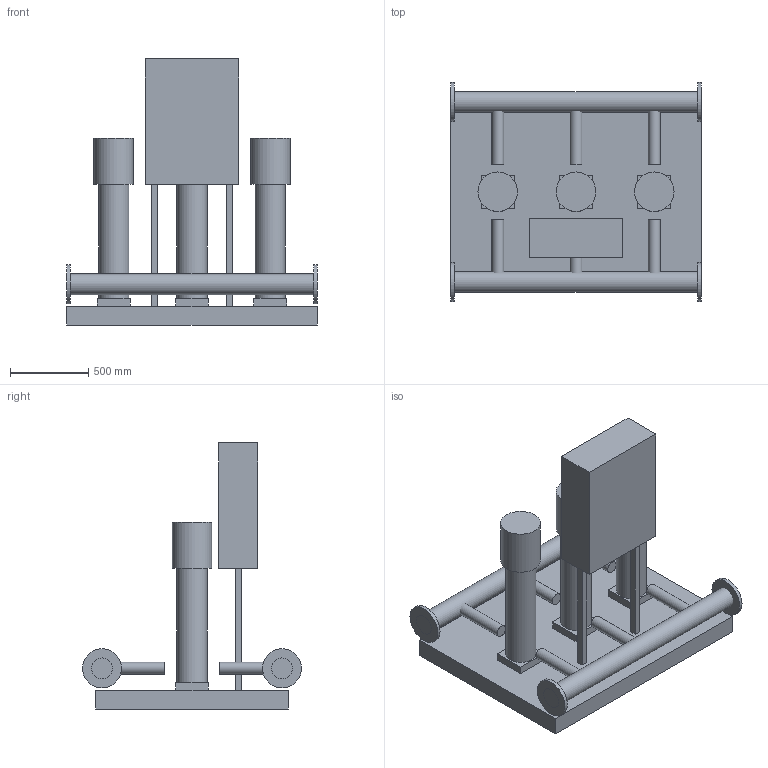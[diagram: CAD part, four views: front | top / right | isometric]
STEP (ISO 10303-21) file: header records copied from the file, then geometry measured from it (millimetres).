
FILE_DESCRIPTION(('Open CASCADE Model'),'2;1');
FILE_NAME('Open CASCADE Shape Model','2026-10-21T15:05:55',('Author'),( 'Open CASCADE'),'Open CASCADE STEP processor 7.9','Open CASCADE 7.9' ,'Unknown');
FILE_SCHEMA(('AUTOMOTIVE_DESIGN { 1 0 10303 214 1 1 1 1 }'));
Length unit declared in the file: millimetre
Products named in the file (26): Ð£ÐÐ_ÐÐ ÐÐÐÐ¬_3_CDM_32_2; 000_Ð Ð°Ð¼Ð° (Ð¾ÑÐ½Ð¾Ð²Ð°Ð½Ð¸Ðµ); 001_ÐÐ¾Ð»Ð»ÐµÐºÑÐ¾Ñ 
Ð²ÑÐ°ÑÑÐ²Ð°ÑÑÐ¸Ð¹; 002_ÐÐ¾Ð»Ð»ÐµÐºÑÐ¾Ñ 
Ð²ÑÐ°ÑÑÐ²Ð°ÑÑÐ¸Ð¹ â 
ÑÐ»Ð°Ð½ÐµÑ ÐÑ125; 003_ÐÐ¾Ð»Ð»ÐµÐºÑÐ¾Ñ 
Ð²ÑÐ°ÑÑÐ²Ð°ÑÑÐ¸Ð¹ â 
ÑÐ»Ð°Ð½ÐµÑ ÐÑ125; 004_ÐÐ¾Ð»Ð»ÐµÐºÑÐ¾Ñ 
Ð½Ð°Ð¿Ð¾ÑÐ½ÑÐ¹; 005_ÐÐ¾Ð»Ð»ÐµÐºÑÐ¾Ñ 
Ð½Ð°Ð¿Ð¾ÑÐ½ÑÐ¹ â ÑÐ»Ð°Ð½ÐµÑ 
ÐÑ125; 006_ÐÐ¾Ð»Ð»ÐµÐºÑÐ¾Ñ 
Ð½Ð°Ð¿Ð¾ÑÐ½ÑÐ¹ â ÑÐ»Ð°Ð½ÐµÑ 
ÐÑ125; 007_ÐÐ°ÑÐ¾Ñ 1 â Ð¾Ð¿Ð¾ÑÐ°; 008_ÐÐ°ÑÐ¾Ñ 1 â 
Ð³Ð¸Ð´ÑÐ¾ÑÐ°ÑÑÑ; 009_ÐÐ°ÑÐ¾Ñ 1 â Ð´Ð²Ð¸Ð³Ð°ÑÐµÐ»Ñ 
4.0 ÐºÐÑ; 010_ÐÐ°ÑÐ¾Ñ 1 â Ð¾Ð±Ð²ÑÐ·ÐºÐ° 
Ð²ÑÐ¾Ð´ ÐÑ65; 011_ÐÐ°ÑÐ¾Ñ 1 â Ð¾Ð±Ð²ÑÐ·ÐºÐ° 
Ð²ÑÑÐ¾Ð´ ÐÑ65; 012_ÐÐ°ÑÐ¾Ñ 2 â Ð¾Ð¿Ð¾ÑÐ°; 013_ÐÐ°ÑÐ¾Ñ 2 â 
Ð³Ð¸Ð´ÑÐ¾ÑÐ°ÑÑÑ; 014_ÐÐ°ÑÐ¾Ñ 2 â Ð´Ð²Ð¸Ð³Ð°ÑÐµÐ»Ñ 
4.0 ÐºÐÑ; 015_ÐÐ°ÑÐ¾Ñ 2 â Ð¾Ð±Ð²ÑÐ·ÐºÐ° 
Ð²ÑÐ¾Ð´ ÐÑ65; 016_ÐÐ°ÑÐ¾Ñ 2 â Ð¾Ð±Ð²ÑÐ·ÐºÐ° 
Ð²ÑÑÐ¾Ð´ ÐÑ65; 017_ÐÐ°ÑÐ¾Ñ 3 â Ð¾Ð¿Ð¾ÑÐ°; 018_ÐÐ°ÑÐ¾Ñ 3 â 
Ð³Ð¸Ð´ÑÐ¾ÑÐ°ÑÑÑ; 019_ÐÐ°ÑÐ¾Ñ 3 â Ð´Ð²Ð¸Ð³Ð°ÑÐµÐ»Ñ 
4.0 ÐºÐÑ; 020_ÐÐ°ÑÐ¾Ñ 3 â Ð¾Ð±Ð²ÑÐ·ÐºÐ° 
Ð²ÑÐ¾Ð´ ÐÑ65; 021_ÐÐ°ÑÐ¾Ñ 3 â Ð¾Ð±Ð²ÑÐ·ÐºÐ° 
Ð²ÑÑÐ¾Ð´ ÐÑ65; 022_Ð¨ÐºÐ°Ñ ÑÐ¿ÑÐ°Ð²Ð»ÐµÐ½Ð¸Ñ; 023_Ð¡ÑÐ¾Ð¹ÐºÐ° ÑÐºÐ°ÑÐ°; 024_Ð¡ÑÐ¾Ð¹ÐºÐ° ÑÐºÐ°ÑÐ°
Assembly tree (25 placements, depth 2):
  Ð£ÐÐ_ÐÐ ÐÐÐÐ¬_3_CDM_32_2
    000_Ð Ð°Ð¼Ð° (Ð¾ÑÐ½Ð¾Ð²Ð°Ð½Ð¸Ðµ)
    001_ÐÐ¾Ð»Ð»ÐµÐºÑÐ¾Ñ 
Ð²ÑÐ°ÑÑÐ²Ð°ÑÑÐ¸Ð¹
    002_ÐÐ¾Ð»Ð»ÐµÐºÑÐ¾Ñ 
Ð²ÑÐ°ÑÑÐ²Ð°ÑÑÐ¸Ð¹ â 
ÑÐ»Ð°Ð½ÐµÑ ÐÑ125
    003_ÐÐ¾Ð»Ð»ÐµÐºÑÐ¾Ñ 
Ð²ÑÐ°ÑÑÐ²Ð°ÑÑÐ¸Ð¹ â 
ÑÐ»Ð°Ð½ÐµÑ ÐÑ125
    004_ÐÐ¾Ð»Ð»ÐµÐºÑÐ¾Ñ 
Ð½Ð°Ð¿Ð¾ÑÐ½ÑÐ¹
    005_ÐÐ¾Ð»Ð»ÐµÐºÑÐ¾Ñ 
Ð½Ð°Ð¿Ð¾ÑÐ½ÑÐ¹ â ÑÐ»Ð°Ð½ÐµÑ 
ÐÑ125
    006_ÐÐ¾Ð»Ð»ÐµÐºÑÐ¾Ñ 
Ð½Ð°Ð¿Ð¾ÑÐ½ÑÐ¹ â ÑÐ»Ð°Ð½ÐµÑ 
ÐÑ125
    007_ÐÐ°ÑÐ¾Ñ 1 â Ð¾Ð¿Ð¾ÑÐ°
    008_ÐÐ°ÑÐ¾Ñ 1 â 
Ð³Ð¸Ð´ÑÐ¾ÑÐ°ÑÑÑ
    009_ÐÐ°ÑÐ¾Ñ 1 â Ð´Ð²Ð¸Ð³Ð°ÑÐµÐ»Ñ 
4.0 ÐºÐÑ
    010_ÐÐ°ÑÐ¾Ñ 1 â Ð¾Ð±Ð²ÑÐ·ÐºÐ° 
Ð²ÑÐ¾Ð´ ÐÑ65
    011_ÐÐ°ÑÐ¾Ñ 1 â Ð¾Ð±Ð²ÑÐ·ÐºÐ° 
Ð²ÑÑÐ¾Ð´ ÐÑ65
    012_ÐÐ°ÑÐ¾Ñ 2 â Ð¾Ð¿Ð¾ÑÐ°
    013_ÐÐ°ÑÐ¾Ñ 2 â 
Ð³Ð¸Ð´ÑÐ¾ÑÐ°ÑÑÑ
    014_ÐÐ°ÑÐ¾Ñ 2 â Ð´Ð²Ð¸Ð³Ð°ÑÐµÐ»Ñ 
4.0 ÐºÐÑ
    015_ÐÐ°ÑÐ¾Ñ 2 â Ð¾Ð±Ð²ÑÐ·ÐºÐ° 
Ð²ÑÐ¾Ð´ ÐÑ65
    016_ÐÐ°ÑÐ¾Ñ 2 â Ð¾Ð±Ð²ÑÐ·ÐºÐ° 
Ð²ÑÑÐ¾Ð´ ÐÑ65
    017_ÐÐ°ÑÐ¾Ñ 3 â Ð¾Ð¿Ð¾ÑÐ°
    018_ÐÐ°ÑÐ¾Ñ 3 â 
Ð³Ð¸Ð´ÑÐ¾ÑÐ°ÑÑÑ
    019_ÐÐ°ÑÐ¾Ñ 3 â Ð´Ð²Ð¸Ð³Ð°ÑÐµÐ»Ñ 
4.0 ÐºÐÑ
    020_ÐÐ°ÑÐ¾Ñ 3 â Ð¾Ð±Ð²ÑÐ·ÐºÐ° 
Ð²ÑÐ¾Ð´ ÐÑ65
    021_ÐÐ°ÑÐ¾Ñ 3 â Ð¾Ð±Ð²ÑÐ·ÐºÐ° 
Ð²ÑÑÐ¾Ð´ ÐÑ65
    022_Ð¨ÐºÐ°Ñ ÑÐ¿ÑÐ°Ð²Ð»ÐµÐ½Ð¸Ñ
    023_Ð¡ÑÐ¾Ð¹ÐºÐ° ÑÐºÐ°ÑÐ°
    024_Ð¡ÑÐ¾Ð¹ÐºÐ° ÑÐºÐ°ÑÐ°
Bounding box: 1600 x 1400 x 1700 mm (x, y, z)
Volume: 533220492.6 mm3; surface area: 11907909.5 mm2
Topology: 25 solids, 25 shells, 96 faces, 138 edges, 92 vertices
Faces by surface type: plane 78, cylinder 18
Full cylindrical faces by diameter (mm): 76 x6, 133 x2, 192.5 x3, 250 x4, 252.8 x3
Entity records: 4470 total; most frequent: DIRECTION 694, CARTESIAN_POINT 628, LINE 342, VECTOR 342, ORIENTED_EDGE 276, PCURVE 276, DEFINITIONAL_REPRESENTATION 276, AXIS2_PLACEMENT_3D 158
